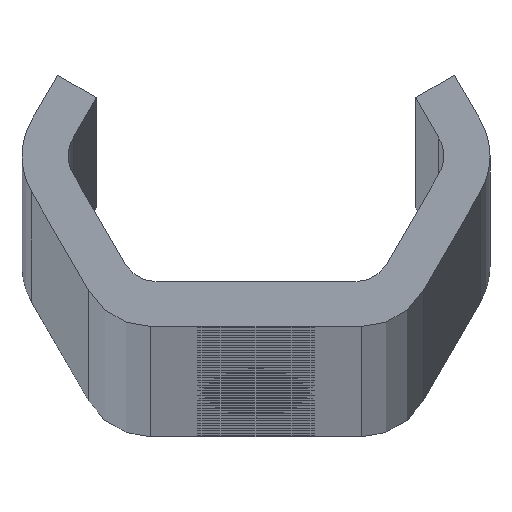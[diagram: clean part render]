
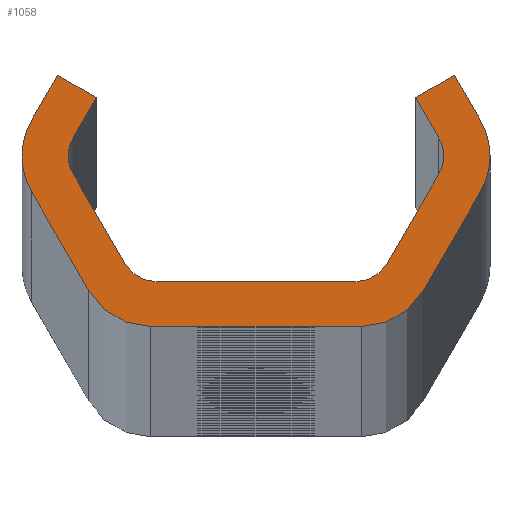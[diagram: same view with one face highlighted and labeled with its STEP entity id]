
A CAD part, top view. The second image highlights one B-rep face of the part: STEP entity #1058.
In plain terms, the highlighted planar face has unit normal (0, 0, 1).
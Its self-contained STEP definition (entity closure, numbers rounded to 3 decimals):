
#1058=ADVANCED_FACE('NONE',(#2858),#2859,.F.);
#2858=FACE_OUTER_BOUND('',#9082,.T.);
#2859=PLANE('',#9083);
#9082=EDGE_LOOP('',(#18516,#18517,#18518,#18519,#18520,#18521,#18522,#18523,#18524,#18525,#18526,#18527,#18528,#18529,#18530,#18531,#18532,#18533,#18534,#18535,#18536,#18537,#18538,#18539));
#9083=AXIS2_PLACEMENT_3D('',#18540,#18541,#18542);
#18516=ORIENTED_EDGE('',*,*,#24349,.T.);
#18517=ORIENTED_EDGE('',*,*,#24366,.T.);
#18518=ORIENTED_EDGE('',*,*,#24351,.T.);
#18519=ORIENTED_EDGE('',*,*,#24367,.T.);
#18520=ORIENTED_EDGE('',*,*,#24360,.F.);
#18521=ORIENTED_EDGE('',*,*,#24368,.T.);
#18522=ORIENTED_EDGE('',*,*,#23325,.T.);
#18523=ORIENTED_EDGE('',*,*,#24363,.F.);
#18524=ORIENTED_EDGE('',*,*,#23905,.F.);
#18525=ORIENTED_EDGE('',*,*,#23909,.F.);
#18526=ORIENTED_EDGE('',*,*,#23559,.T.);
#18527=ORIENTED_EDGE('',*,*,#24369,.T.);
#18528=ORIENTED_EDGE('',*,*,#23913,.F.);
#18529=ORIENTED_EDGE('',*,*,#24370,.T.);
#18530=ORIENTED_EDGE('',*,*,#23918,.F.);
#18531=ORIENTED_EDGE('',*,*,#24371,.T.);
#18532=ORIENTED_EDGE('',*,*,#24332,.T.);
#18533=ORIENTED_EDGE('',*,*,#24372,.T.);
#18534=ORIENTED_EDGE('',*,*,#23320,.T.);
#18535=ORIENTED_EDGE('',*,*,#24335,.T.);
#18536=ORIENTED_EDGE('',*,*,#24341,.T.);
#18537=ORIENTED_EDGE('',*,*,#24345,.T.);
#18538=ORIENTED_EDGE('',*,*,#24373,.T.);
#18539=ORIENTED_EDGE('',*,*,#23562,.T.);
#18540=CARTESIAN_POINT('',(0.0,0.0,3520.0));
#18541=DIRECTION('',(0.0,0.0,-1.0));
#18542=DIRECTION('',(0.0,-1.0,0.0));
#23320=EDGE_CURVE('NONE',#25980,#25984,#25986,.T.);
#23325=EDGE_CURVE('NONE',#25989,#25993,#25995,.T.);
#23559=EDGE_CURVE('NONE',#26416,#26414,#26417,.T.);
#23562=EDGE_CURVE('NONE',#26420,#26421,#26422,.T.);
#23905=EDGE_CURVE('NONE',#26936,#26938,#26939,.T.);
#23909=EDGE_CURVE('NONE',#26416,#26936,#26943,.T.);
#23913=EDGE_CURVE('NONE',#26948,#26950,#26951,.T.);
#23918=EDGE_CURVE('NONE',#26957,#26959,#26960,.T.);
#24332=EDGE_CURVE('NONE',#27762,#27760,#27763,.T.);
#24335=EDGE_CURVE('NONE',#25984,#27766,#27767,.T.);
#24341=EDGE_CURVE('NONE',#27766,#27774,#27776,.T.);
#24345=EDGE_CURVE('NONE',#27774,#27780,#27782,.T.);
#24349=EDGE_CURVE('NONE',#26421,#27786,#27788,.T.);
#24351=EDGE_CURVE('NONE',#27790,#27791,#27792,.T.);
#24360=EDGE_CURVE('NONE',#27804,#27806,#27807,.T.);
#24363=EDGE_CURVE('NONE',#26938,#25993,#27810,.T.);
#24366=EDGE_CURVE('NONE',#27786,#27790,#27813,.T.);
#24367=EDGE_CURVE('NONE',#27791,#27806,#27814,.T.);
#24368=EDGE_CURVE('NONE',#27804,#25989,#27815,.T.);
#24369=EDGE_CURVE('NONE',#26414,#26950,#27816,.T.);
#24370=EDGE_CURVE('NONE',#26948,#26959,#27817,.T.);
#24371=EDGE_CURVE('NONE',#26957,#27762,#27818,.T.);
#24372=EDGE_CURVE('NONE',#27760,#25980,#27819,.T.);
#24373=EDGE_CURVE('NONE',#27780,#26420,#27820,.T.);
#25980=VERTEX_POINT('',#29922);
#25984=VERTEX_POINT('NONE',#29927);
#25986=CIRCLE('',#29930,2.0);
#25989=VERTEX_POINT('',#29933);
#25993=VERTEX_POINT('NONE',#29938);
#25995=CIRCLE('',#29941,4.0);
#26414=VERTEX_POINT('NONE',#34214);
#26416=VERTEX_POINT('NONE',#34217);
#26417=CIRCLE('',#34218,2.0);
#26420=VERTEX_POINT('NONE',#34222);
#26421=VERTEX_POINT('NONE',#34223);
#26422=CIRCLE('',#34224,4.0);
#26936=VERTEX_POINT('NONE',#34825);
#26938=VERTEX_POINT('NONE',#34828);
#26939=LINE('',#34829,#34830);
#26943=LINE('',#34836,#34837);
#26948=VERTEX_POINT('NONE',#34843);
#26950=VERTEX_POINT('NONE',#34846);
#26951=LINE('',#34847,#34848);
#26957=VERTEX_POINT('NONE',#34856);
#26959=VERTEX_POINT('NONE',#34859);
#26960=LINE('',#34860,#34861);
#27760=VERTEX_POINT('NONE',#37863);
#27762=VERTEX_POINT('NONE',#37866);
#27763=LINE('',#37867,#37868);
#27766=VERTEX_POINT('NONE',#37872);
#27767=LINE('',#37873,#37874);
#27774=VERTEX_POINT('NONE',#37884);
#27776=LINE('',#37887,#37888);
#27780=VERTEX_POINT('NONE',#37893);
#27782=LINE('',#37896,#37897);
#27786=VERTEX_POINT('NONE',#37902);
#27788=LINE('',#37905,#37906);
#27790=VERTEX_POINT('NONE',#37908);
#27791=VERTEX_POINT('NONE',#37909);
#27792=LINE('',#37910,#37911);
#27804=VERTEX_POINT('NONE',#37927);
#27806=VERTEX_POINT('NONE',#37930);
#27807=LINE('',#37931,#37932);
#27810=LINE('',#37936,#37937);
#27813=CIRCLE('',#37941,4.0);
#27814=CIRCLE('',#37942,4.0);
#27815=CIRCLE('',#37943,4.0);
#27816=CIRCLE('',#37944,2.0);
#27817=CIRCLE('',#37945,2.0);
#27818=CIRCLE('',#37946,2.0);
#27819=CIRCLE('',#37947,2.0);
#27820=CIRCLE('',#37948,4.0);
#29922=CARTESIAN_POINT('',(-10.455,0.,3520.0));
#29927=CARTESIAN_POINT('',(-10.187,1.,3520.0));
#29930=AXIS2_PLACEMENT_3D('',#45003,#45004,#45005);
#29933=CARTESIAN_POINT('',(13.032,0.,3520.0));
#29938=CARTESIAN_POINT('',(12.496,2.,3520.0));
#29941=AXIS2_PLACEMENT_3D('',#45011,#45012,#45013);
#34214=CARTESIAN_POINT('',(10.455,0.,3520.0));
#34217=CARTESIAN_POINT('',(10.187,1.,3520.0));
#34218=AXIS2_PLACEMENT_3D('',#45122,#45123,#45124);
#34222=CARTESIAN_POINT('',(-13.032,0.,3520.0));
#34223=CARTESIAN_POINT('',(-12.496,-2.,3520.0));
#34224=AXIS2_PLACEMENT_3D('',#45126,#45127,#45128);
#34825=CARTESIAN_POINT('',(8.888,3.25,3520.0));
#34828=CARTESIAN_POINT('',(11.053,4.5,3520.0));
#34829=CARTESIAN_POINT('',(8.888,3.25,3520.0));
#34830=VECTOR('',#45724,1000.0);
#34836=CARTESIAN_POINT('',(10.764,0.,3520.0));
#34837=VECTOR('',#45727,1000.0);
#34843=CARTESIAN_POINT('',(7.3,-6.,3520.0));
#34846=CARTESIAN_POINT('',(10.187,-1.,3520.0));
#34847=CARTESIAN_POINT('',(6.723,-7.0,3520.0));
#34848=VECTOR('',#45730,1000.0);
#34856=CARTESIAN_POINT('',(-5.568,-7.0,3520.0));
#34859=CARTESIAN_POINT('',(5.568,-7.0,3520.0));
#34860=CARTESIAN_POINT('',(-6.723,-7.0,3520.0));
#34861=VECTOR('',#45734,1000.0);
#37863=CARTESIAN_POINT('',(-10.187,-1.,3520.0));
#37866=CARTESIAN_POINT('',(-7.3,-6.,3520.0));
#37867=CARTESIAN_POINT('',(-6.723,-7.0,3520.0));
#37868=VECTOR('',#46107,1000.0);
#37872=CARTESIAN_POINT('',(-8.888,3.25,3520.0));
#37873=CARTESIAN_POINT('',(-10.764,0.0,3520.0));
#37874=VECTOR('',#46109,1000.0);
#37884=CARTESIAN_POINT('',(-11.053,4.5,3520.0));
#37887=CARTESIAN_POINT('',(-8.888,3.25,3520.0));
#37888=VECTOR('',#46114,1000.0);
#37893=CARTESIAN_POINT('',(-12.496,2.0,3520.0));
#37896=CARTESIAN_POINT('',(-11.053,4.5,3520.0));
#37897=VECTOR('',#46117,1000.0);
#37902=CARTESIAN_POINT('',(-9.321,-7.5,3520.0));
#37905=CARTESIAN_POINT('',(-13.651,0.0,3520.0));
#37906=VECTOR('',#46120,1000.0);
#37908=CARTESIAN_POINT('',(-5.857,-9.5,3520.0));
#37909=CARTESIAN_POINT('',(5.857,-9.5,3520.0));
#37910=CARTESIAN_POINT('',(-8.166,-9.5,3520.0));
#37911=VECTOR('',#46121,1000.0);
#37927=CARTESIAN_POINT('',(12.496,-2.,3520.0));
#37930=CARTESIAN_POINT('',(9.321,-7.5,3520.0));
#37931=CARTESIAN_POINT('',(13.651,0.,3520.0));
#37932=VECTOR('',#46133,1000.0);
#37936=CARTESIAN_POINT('',(11.053,4.5,3520.0));
#37937=VECTOR('',#46135,1000.0);
#37941=AXIS2_PLACEMENT_3D('',#46137,#46138,#46139);
#37942=AXIS2_PLACEMENT_3D('',#46140,#46141,#46142);
#37943=AXIS2_PLACEMENT_3D('',#46143,#46144,#46145);
#37944=AXIS2_PLACEMENT_3D('',#46146,#46147,#46148);
#37945=AXIS2_PLACEMENT_3D('',#46149,#46150,#46151);
#37946=AXIS2_PLACEMENT_3D('',#46152,#46153,#46154);
#37947=AXIS2_PLACEMENT_3D('',#46155,#46156,#46157);
#37948=AXIS2_PLACEMENT_3D('',#46158,#46159,#46160);
#45003=CARTESIAN_POINT('',(-8.455,0.,3520.0));
#45004=DIRECTION('',(0.0,0.0,-1.0));
#45005=DIRECTION('',(-1.0,0.0,0.0));
#45011=CARTESIAN_POINT('',(9.032,0.,3520.0));
#45012=DIRECTION('',(0.0,0.0,1.0));
#45013=DIRECTION('',(-1.0,0.0,0.0));
#45122=CARTESIAN_POINT('',(8.455,0.,3520.0));
#45123=DIRECTION('',(0.0,0.0,-1.0));
#45124=DIRECTION('',(-1.0,0.0,0.0));
#45126=CARTESIAN_POINT('',(-9.032,0.,3520.0));
#45127=DIRECTION('',(0.0,0.0,1.0));
#45128=DIRECTION('',(-1.0,0.0,0.0));
#45724=DIRECTION('',(0.866,0.5,0.0));
#45727=DIRECTION('',(-0.5,0.866,0.0));
#45730=DIRECTION('',(0.5,0.866,0.0));
#45734=DIRECTION('',(1.0,0.,0.0));
#46107=DIRECTION('',(-0.5,0.866,0.0));
#46109=DIRECTION('',(0.5,0.866,0.0));
#46114=DIRECTION('',(-0.866,0.5,0.0));
#46117=DIRECTION('',(-0.5,-0.866,0.0));
#46120=DIRECTION('',(0.5,-0.866,0.0));
#46121=DIRECTION('',(1.0,0.,0.0));
#46133=DIRECTION('',(-0.5,-0.866,0.0));
#46135=DIRECTION('',(0.5,-0.866,0.0));
#46137=CARTESIAN_POINT('',(-5.857,-5.5,3520.0));
#46138=DIRECTION('',(0.0,0.0,1.0));
#46139=DIRECTION('',(-1.0,0.,0.0));
#46140=CARTESIAN_POINT('',(5.857,-5.5,3520.0));
#46141=DIRECTION('',(0.0,0.0,1.0));
#46142=DIRECTION('',(-1.0,0.,0.0));
#46143=CARTESIAN_POINT('',(9.032,0.,3520.0));
#46144=DIRECTION('',(0.0,0.0,1.0));
#46145=DIRECTION('',(-1.0,0.0,0.0));
#46146=CARTESIAN_POINT('',(8.455,0.,3520.0));
#46147=DIRECTION('',(0.0,0.0,-1.0));
#46148=DIRECTION('',(-1.0,0.0,0.0));
#46149=CARTESIAN_POINT('',(5.568,-5.0,3520.0));
#46150=DIRECTION('',(0.0,0.0,-1.0));
#46151=DIRECTION('',(-1.0,0.0,0.0));
#46152=CARTESIAN_POINT('',(-5.568,-5.0,3520.0));
#46153=DIRECTION('',(0.0,0.0,-1.0));
#46154=DIRECTION('',(-1.0,0.0,0.0));
#46155=CARTESIAN_POINT('',(-8.455,0.,3520.0));
#46156=DIRECTION('',(0.0,0.0,-1.0));
#46157=DIRECTION('',(-1.0,0.0,0.0));
#46158=CARTESIAN_POINT('',(-9.032,0.,3520.0));
#46159=DIRECTION('',(0.0,0.0,1.0));
#46160=DIRECTION('',(-1.0,0.,0.0));
